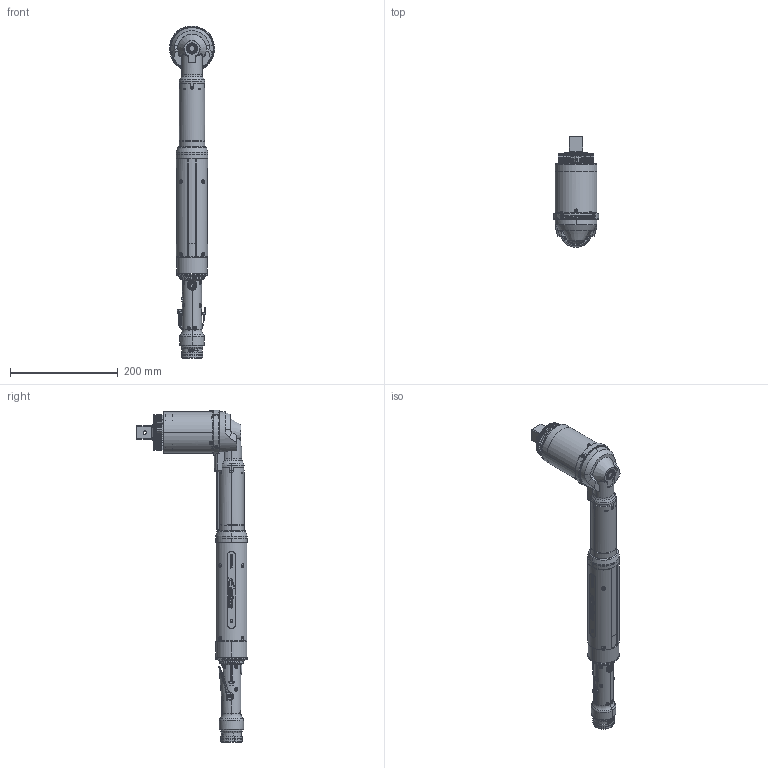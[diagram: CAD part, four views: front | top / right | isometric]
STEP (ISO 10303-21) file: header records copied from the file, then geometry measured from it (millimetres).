
FILE_DESCRIPTION (( 'STEP AP203' ), '1' );
FILE_NAME ('AEN3571600A.STEP', '2014-08-26T18:36:07', ( 'AIMCO' ), ( '' ), 'SwSTEP 2.0', 'SolidWorks 2014', '' );
FILE_SCHEMA (( 'CONFIG_CONTROL_DESIGN' ));
Length unit declared in the file: inch
Products named in the file (1): AEN3571600A
Bounding box: 83.82 x 204.69 x 615.52 mm (x, y, z)
Surface area: 266356.4 mm2 (no closed solid volume)
Topology: 0 solids, 118 shells, 1541 faces, 6645 edges, 4944 vertices
Faces by surface type: cylinder 449, plane 443, bspline 238, torus 225, cone 180, sphere 6
Entity records: 133476 total; most frequent: CARTESIAN_POINT 84616, ORIENTED_EDGE 9614, DIRECTION 8732, EDGE_CURVE 6644, VERTEX_POINT 4944, AXIS2_PLACEMENT_3D 3130, LINE 2472, VECTOR 2472
